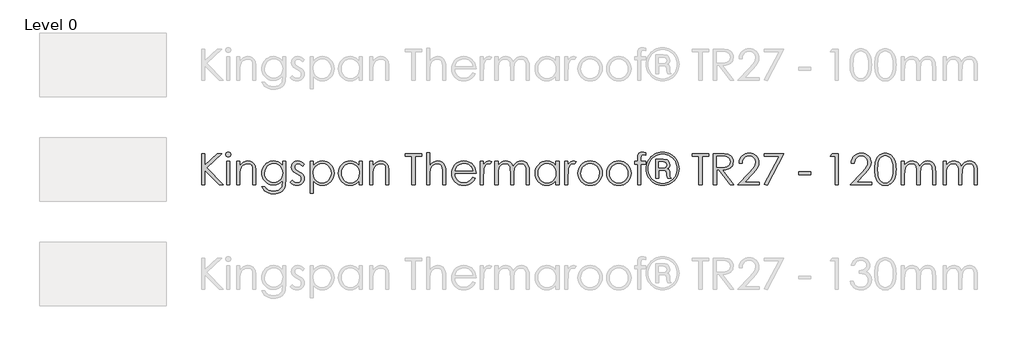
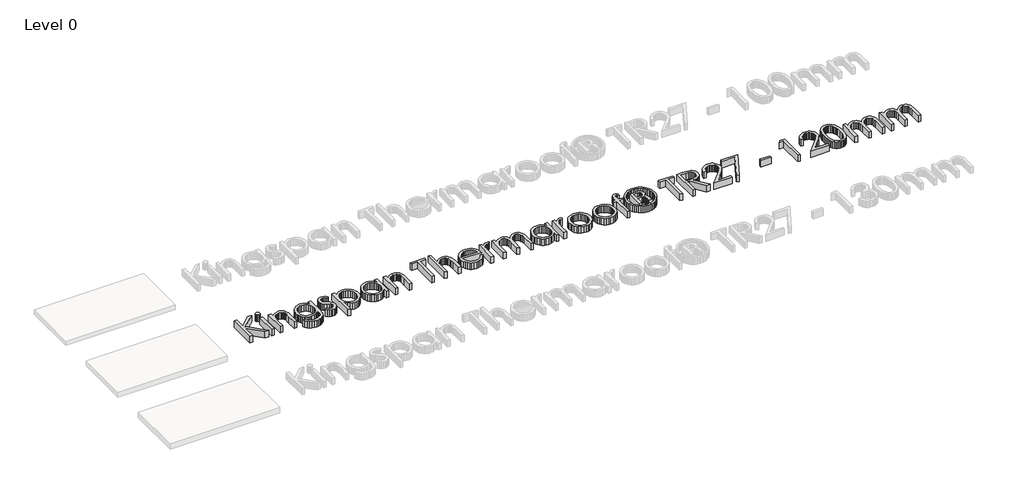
# One storey, part 6 of 12: 1 proxy.
"""IFC4 building model written with IfcOpenShell, lengths in millimetres."""

from ifc_helpers import new_model, si_unit, origin, origin_with_axes, place, context, project, spatial, polyline, outline, extrude, element, save

model = new_model("IFC4")

# Units and contexts
model_context = context("Model", 3, world=origin())
ifc_project = project(units=[si_unit("LENGTHUNIT", "METRE", prefix="MILLI")], contexts=[model_context])

# Site, building, storey
site = spatial("IfcSite", under=ifc_project)
building = spatial("IfcBuilding", under=site)
storey = spatial("IfcBuildingStorey", under=building, Name="Level 0", Elevation=0.0)

# Proxy
placement = place(None, origin())
element("IfcBuildingElementProxy", 1, Name="600mm KI_CenturyGothic", ObjectType="600mm KI_CenturyGothic", at=placement, inside=storey, context=model_context, shape_type="SweptSolid", body=[
    extrude(outline(polyline([(-3852.2663848, -5979.1037818), (-3792.944575, -5979.1037818), (-3792.944575, -6198.3164072), (-3555.1938841, -5979.1037818), (-3471.6181051, -5979.1037818), (-3760.9664119, -6246.051926), (-3441.9572002, -6572.3218801), (-3520.8984627, -6572.3218801), (-3792.944575, -6294.0964126), (-3792.944575, -6572.3218801), (-3852.2663848, -6572.3218801), (-3852.2663848, -5979.1037818)])), origin_with_axes(), (0.0, 0.0, 1.0), 150.0),
    extrude(outline(polyline([(-3348.1854852, -5949.4428769), (-3329.145347, -5952.7256594), (-3313.1176445, -5962.5740067), (-3302.226531, -5977.0182494), (-3298.5961598, -5994.0887182), (-3302.226531, -6010.927461), (-3313.1176445, -6025.2944619), (-3329.145347, -6035.1428092), (-3348.1854852, -6038.4255916), (-3366.9938975, -6035.1428092), (-3382.9443581, -6025.2944619), (-3393.8354717, -6010.927461), (-3397.4658428, -5994.0887182), (-3393.8354717, -5977.0182494), (-3382.9443581, -5962.5740067), (-3366.9938975, -5952.7256594), (-3348.1854852, -5949.4428769)])), origin_with_axes(), (0.0, 0.0, 1.0), 150.0),
    extrude(outline(polyline([(-3377.6919062, -6127.4083064), (-3318.3700964, -6127.4083064), (-3318.3700964, -6572.3218801), (-3377.6919062, -6572.3218801), (-3377.6919062, -6127.4083064)])), origin_with_axes(), (0.0, 0.0, 1.0), 150.0),
    extrude(outline(polyline([(-3189.8395084, -6127.4083064), (-3130.5176986, -6127.4083064), (-3130.5176986, -6206.5040528), (-3096.9946967, -6166.9948006), (-3060.0730495, -6139.3035651), (-3019.7141359, -6122.9668948), (-2975.879335, -6117.5213381), (-2953.4357238, -6119.0999702), (-2932.2955704, -6123.8358667), (-2912.4588747, -6131.7290274), (-2893.9256368, -6142.7794524), (-2877.212412, -6156.5043796), (-2862.835756, -6172.4210468), (-2841.0921499, -6210.8296014), (-2833.6238199, -6235.2090887), (-2828.2892984, -6265.5555158), (-2824.0216812, -6344.1491897), (-2824.0216812, -6572.3218801), (-2883.343491, -6572.3218801), (-2883.343491, -6359.134126), (-2883.343491, -6256.0933782), (-2884.7290183, -6235.2959859), (-2889.8125035, -6217.2406825), (-2898.2849788, -6201.9274679), (-2910.1464442, -6189.3563422), (-2924.7403432, -6179.556271), (-2941.4101193, -6172.5562202), (-2980.977303, -6166.9561796), (-3005.3471351, -6169.1141263), (-3028.4038541, -6175.5879664), (-3050.1474602, -6186.3776999), (-3070.5779533, -6201.4833267), (-3088.6622225, -6219.7655284), (-3103.3671568, -6240.0849862), (-3114.6927562, -6262.4417001), (-3122.6390208, -6286.8356703), (-3128.5480292, -6333.9146326), (-3130.5176986, -6408.4144836), (-3130.5176986, -6572.3218801), (-3189.8395084, -6572.3218801), (-3189.8395084, -6127.4083064)])), origin_with_axes(), (0.0, 0.0, 1.0), 150.0),
    extrude(outline(polyline([(-2319.7862977, -6127.4083064), (-2260.4644879, -6127.4083064), (-2260.4644879, -6478.3956812), (-2264.5196897, -6558.6500567), (-2269.588692, -6589.4502802), (-2276.6852953, -6614.0325276), (-2289.9371156, -6642.6458387), (-2307.2924139, -6667.7736073), (-2328.7511904, -6689.4158333), (-2354.3134448, -6707.5725168), (-2383.3226209, -6721.93469), (-2415.122162, -6732.1933851), (-2449.7120682, -6738.3486022), (-2487.0923395, -6740.4003412), (-2541.0458345, -6736.3837603), (-2589.206184, -6724.3340177), (-2630.260275, -6705.5062949), (-2662.8949946, -6681.1557733), (-2690.2000204, -6647.8065658), (-2715.2650299, -6601.982785), (-2655.94322, -6601.982785), (-2642.4355358, -6623.1519041), (-2627.0933555, -6641.3954848), (-2609.9166791, -6656.713527), (-2590.9055067, -6669.1060307), (-2569.7894914, -6678.6695484), (-2546.2982864, -6685.5006325), (-2492.1903075, -6690.9654997), (-2438.5071593, -6685.6358058), (-2415.083541, -6678.9736885), (-2393.93856, -6669.6467243), (-2359.6624492, -6645.6051705), (-2336.8567664, -6616.11806), (-2329.3884364, -6597.4786143), (-2324.0539149, -6573.7701664), (-2319.7862977, -6511.1462637), (-2319.7862977, -6488.4371333), (-2354.757586, -6524.219462), (-2396.6420279, -6550.6168949), (-2443.392712, -6566.8956338), (-2492.9627269, -6572.3218801), (-2522.4063889, -6570.4246249), (-2550.9521133, -6564.7328595), (-2578.5999001, -6555.2465837), (-2605.3497494, -6541.9657977), (-2630.1540674, -6525.4746435), (-2651.9652601, -6506.3572634), (-2670.7833277, -6484.6136573), (-2686.6082702, -6460.2438253), (-2699.1456025, -6433.9284619), (-2708.1008399, -6406.3482617), (-2713.4739824, -6377.5032248), (-2715.2650299, -6347.3933511), (-2713.3967404, -6317.1048555), (-2707.7918722, -6287.8784365), (-2698.4504251, -6259.7140941), (-2685.3723991, -6232.6118285), (-2668.9971079, -6207.4261285), (-2649.7638648, -6185.011483), (-2627.67267, -6165.3678922), (-2602.7235235, -6148.495356), (-2575.9833294, -6134.9442231), (-2548.5189922, -6125.2648425), (-2520.3305117, -6119.4572142), (-2491.4178881, -6117.5213381), (-2444.5320306, -6122.4648222), (-2400.8903346, -6137.2952747), (-2359.6045177, -6163.866502), (-2319.7862977, -6204.0323107), (-2319.7862977, -6127.4083064)]), holes=[polyline([(-2484.1571458, -6166.9561796), (-2529.0154023, -6172.9810509), (-2570.5908765, -6191.0556648), (-2606.2187212, -6219.770356), (-2633.2340897, -6257.7154589), (-2650.2659375, -6301.994401), (-2655.94322, -6349.7106093), (-2653.0080263, -6385.6232838), (-2644.2024452, -6418.2821415), (-2629.5264766, -6447.6871824), (-2608.9801206, -6473.8384067), (-2583.7606272, -6495.2971831), (-2555.0652466, -6510.6248806), (-2522.8939786, -6519.821499), (-2487.2468234, -6522.8870385), (-2451.3244937, -6519.8456372), (-2419.1001219, -6510.721433), (-2390.573708, -6495.5144261), (-2365.7452519, -6474.2246164), (-2345.6382095, -6447.9816673), (-2331.2760363, -6417.9152422), (-2322.6587323, -6384.0253411), (-2319.7862977, -6346.311964), (-2325.0773706, -6297.6109209), (-2340.9505892, -6254.3940555), (-2366.4983608, -6218.1675857), (-2400.8130926, -6190.4377293), (-2440.9982119, -6172.826567), (-2484.1571458, -6166.9561796)])]), origin_with_axes(), (0.0, 0.0, 1.0), 150.0),
    extrude(outline(polyline([(-1904.5336289, -6178.6969545), (-1940.9918246, -6216.3910211), (-1962.9575012, -6194.7632779), (-1984.6721416, -6179.31489), (-2006.1357456, -6170.0458572), (-2027.3483133, -6166.9561796), (-2052.181597, -6171.629317), (-2073.2300256, -6185.648729), (-2087.5970264, -6205.8861173), (-2092.3860267, -6229.2131831), (-2088.4466878, -6250.7636844), (-2076.628671, -6271.2327984), (-2052.0657341, -6293.4012352), (-2010.2006027, -6319.1228011), (-1958.3326401, -6351.9892466), (-1939.8428507, -6367.814189), (-1926.315856, -6383.2336112), (-1909.9791857, -6415.9069518), (-1904.5336289, -6452.4423894), (-1906.9474396, -6478.588786), (-1914.1888714, -6502.6496503), (-1926.2579245, -6524.6249822), (-1943.1545989, -6544.5147817), (-1963.6719892, -6561.0059359), (-1986.6031901, -6572.7853317), (-2011.9482016, -6579.8529692), (-2039.7070237, -6582.2088484), (-2077.4397114, -6578.3274409), (-2113.3958344, -6566.6832184), (-2145.4512394, -6548.2030843), (-2171.4817731, -6523.8139418), (-2135.7959969, -6483.3391653), (-2114.0041146, -6504.9669085), (-2091.5749863, -6520.4152965), (-2068.5086121, -6529.6843292), (-2044.8049918, -6532.7740068), (-2013.637869, -6527.1353452), (-1987.4914724, -6510.2193604), (-1969.7644472, -6485.6564235), (-1963.8554388, -6457.0769058), (-1967.7561567, -6433.2863883), (-1979.4583106, -6412.2765806), (-2005.0253927, -6390.5715955), (-2050.2119275, -6363.7686424), (-2099.762632, -6333.1035923), (-2117.441381, -6317.9448616), (-2130.3890611, -6302.9019938), (-2146.3781427, -6270.7693468), (-2151.7078365, -6234.3111512), (-2149.5305794, -6210.2647698), (-2142.9988078, -6188.3328865), (-2132.1125219, -6168.5155013), (-2116.8717217, -6150.8126142), (-2098.309518, -6136.2476809), (-2077.4590218, -6125.8441571), (-2054.3202332, -6119.6020428), (-2028.8931521, -6117.5213381), (-1997.9481, -6121.3448141), (-1966.9064954, -6132.8152422), (-1935.7683384, -6151.9326223), (-1904.5336289, -6178.6969545)])), origin_with_axes(), (0.0, 0.0, 1.0), 150.0),
    extrude(outline(polyline([(-1795.7769776, -6127.4083064), (-1736.4551678, -6127.4083064), (-1736.4551678, -6208.5123432), (-1700.9238754, -6168.2692926), (-1660.4490989, -6139.9215006), (-1614.9922173, -6123.1213787), (-1564.5146096, -6117.5213381), (-1520.0618732, -6121.7599895), (-1478.9305402, -6134.4759439), (-1441.1206107, -6155.6692011), (-1406.6320845, -6185.3397613), (-1377.9077381, -6220.9772613), (-1357.3903478, -6260.0713381), (-1345.0799137, -6302.6219917), (-1340.9764356, -6348.6292222), (-1345.0412927, -6395.5295625), (-1357.235864, -6438.7512555), (-1377.5601494, -6478.2943011), (-1406.014149, -6514.1586993), (-1440.2130179, -6543.9306395), (-1477.7719111, -6565.1963111), (-1518.6908288, -6577.955714), (-1562.9697708, -6582.2088484), (-1612.6170277, -6576.7439811), (-1658.0545988, -6560.3493794), (-1699.3211052, -6533.1022851), (-1736.4551678, -6495.0799402), (-1736.4551678, -6730.5133729), (-1795.7769776, -6730.5133729), (-1795.7769776, -6127.4083064)]), holes=[polyline([(-1568.5311905, -6166.9561796), (-1602.5852307, -6170.2534449), (-1633.8392507, -6180.1452408), (-1662.2932503, -6196.6315674), (-1687.9472295, -6219.7124245), (-1709.1694525, -6247.6981449), (-1724.3281832, -6278.899061), (-1733.4234216, -6313.3151728), (-1736.4551678, -6350.9464804), (-1731.048232, -6399.8020073), (-1714.8274246, -6443.4823243), (-1688.5265441, -6480.3267297), (-1652.8793888, -6508.6745216), (-1611.4390881, -6526.7491355), (-1567.7587711, -6532.7740068), (-1525.0632888, -6526.7105146), (-1485.0326535, -6508.5200377), (-1450.2544701, -6479.4191369), (-1423.3163435, -6440.6243726), (-1406.05277, -6395.9592208), (-1400.2982454, -6349.2471577), (-1405.9948385, -6302.3033687), (-1423.0846177, -6257.8699428), (-1449.8103289, -6219.5193197), (-1484.414718, -6190.823939), (-1524.7157001, -6172.9231194), (-1568.5311905, -6166.9561796)])]), origin_with_axes(), (0.0, 0.0, 1.0), 150.0),
    extrude(outline(polyline([(-807.0801472, -6127.4083064), (-807.0801472, -6572.3218801), (-866.401957, -6572.3218801), (-866.401957, -6496.4702951), (-903.4780882, -6534.3188456), (-944.8797679, -6561.0445568), (-990.4525125, -6576.9177755), (-1040.0418379, -6582.2088484), (-1084.3159523, -6577.955714), (-1125.2203871, -6565.1963111), (-1162.7551422, -6543.9306395), (-1196.9202178, -6514.1586993), (-1225.340424, -6478.2943011), (-1245.6405713, -6438.7512555), (-1257.8206597, -6395.5295625), (-1261.8806892, -6348.6292222), (-1257.7820388, -6302.6219917), (-1245.4860875, -6260.0713381), (-1224.9928353, -6220.9772613), (-1196.3022822, -6185.3397613), (-1161.8475494, -6155.6692011), (-1124.061758, -6134.4759439), (-1082.9449079, -6121.7599895), (-1038.4969991, -6117.5213381), (-987.7490446, -6123.1213787), (-942.0990581, -6139.9215006), (-921.2051134, -6152.6084893), (-901.6242816, -6168.2692926), (-866.401957, -6208.5123432), (-866.401957, -6127.4083064), (-807.0801472, -6127.4083064)]), holes=[polyline([(-1034.3259343, -6166.9561796), (-1078.1414247, -6172.9231194), (-1118.4424068, -6190.823939), (-1153.0467959, -6219.5193197), (-1179.7725071, -6257.8699428), (-1196.8622863, -6302.3033687), (-1202.5588794, -6349.2471577), (-1196.8043548, -6395.9592208), (-1179.5407813, -6440.6243726), (-1152.6026548, -6479.4191369), (-1117.8244713, -6508.5200377), (-1077.6779731, -6526.7105146), (-1034.6349021, -6532.7740068), (-991.0125165, -6526.7491355), (-949.7460102, -6508.6745216), (-914.2726493, -6480.3267297), (-888.0297002, -6443.4823243), (-871.8088928, -6399.8020073), (-866.401957, -6350.9464804), (-869.4337032, -6313.3151728), (-878.5289416, -6278.899061), (-893.6876723, -6247.6981449), (-914.9098953, -6219.7124245), (-940.5638746, -6196.6315674), (-969.0178742, -6180.1452408), (-1000.2718941, -6170.2534449), (-1034.3259343, -6166.9561796)])]), origin_with_axes(), (0.0, 0.0, 1.0), 150.0),
    extrude(outline(polyline([(-668.662591, -6127.4083064), (-609.3407811, -6127.4083064), (-609.3407811, -6206.5040528), (-575.8177792, -6166.9948006), (-538.896132, -6139.3035651), (-498.5372184, -6122.9668948), (-454.7024175, -6117.5213381), (-432.2588064, -6119.0999702), (-411.1186529, -6123.8358667), (-391.2819572, -6131.7290274), (-372.7487193, -6142.7794524), (-356.0354946, -6156.5043796), (-341.6588385, -6172.4210468), (-319.9152324, -6210.8296014), (-312.4469024, -6235.2090887), (-307.1123809, -6265.5555158), (-302.8447637, -6344.1491897), (-302.8447637, -6572.3218801), (-362.1665735, -6572.3218801), (-362.1665735, -6359.134126), (-362.1665735, -6256.0933782), (-363.5521008, -6235.2959859), (-368.635586, -6217.2406825), (-377.1080613, -6201.9274679), (-388.9695267, -6189.3563422), (-403.5634257, -6179.556271), (-420.2332018, -6172.5562202), (-459.8003855, -6166.9561796), (-484.1702176, -6169.1141263), (-507.2269366, -6175.5879664), (-528.9705427, -6186.3776999), (-549.4010358, -6201.4833267), (-567.485305, -6219.7655284), (-582.1902393, -6240.0849862), (-593.5158387, -6262.4417001), (-601.4621033, -6286.8356703), (-607.3711117, -6333.9146326), (-609.3407811, -6408.4144836), (-609.3407811, -6572.3218801), (-668.662591, -6572.3218801), (-668.662591, -6127.4083064)])), origin_with_axes(), (0.0, 0.0, 1.0), 150.0),
    extrude(outline(polyline([(3.6512537, -6028.5386233), (3.6512537, -5979.1037818), (320.0342394, -5979.1037818), (320.0342394, -6028.5386233), (191.5036515, -6028.5386233), (191.5036515, -6572.3218801), (132.1818417, -6572.3218801), (132.1818417, -6028.5386233), (3.6512537, -6028.5386233)])), origin_with_axes(), (0.0, 0.0, 1.0), 150.0),
    extrude(outline(polyline([(409.0169542, -5959.3298452), (468.338764, -5959.3298452), (468.338764, -6208.0488916), (502.1128022, -6168.3465345), (539.1696229, -6140.0759845), (579.470605, -6123.1599997), (622.9771276, -6117.5213381), (645.4207388, -6119.0999702), (666.5608922, -6123.8358667), (686.3975879, -6131.7290274), (704.9308258, -6142.7794524), (721.6440506, -6156.4898967), (736.0207066, -6172.3631154), (757.7643127, -6210.5978756), (765.2326428, -6234.9049486), (770.5671642, -6265.2658586), (774.8347814, -6344.1491897), (774.8347814, -6572.3218801), (715.5129716, -6572.3218801), (715.5129716, -6359.134126), (714.1226167, -6294.7529691), (709.9515519, -6256.0933782), (696.4342124, -6217.2406825), (686.7210385, -6201.9274679), (675.0381951, -6189.3563422), (661.3953375, -6179.556271), (645.8021209, -6172.5562202), (608.7646107, -6166.9561796), (585.8961689, -6169.1141263), (564.2539428, -6175.5879664), (543.8379326, -6186.3776999), (524.6481382, -6201.4833267), (507.659739, -6219.7655284), (493.8479146, -6240.0849862), (483.212665, -6262.4417001), (475.7539902, -6286.8356703), (470.1925705, -6333.6829068), (468.338764, -6408.4144836), (468.338764, -6572.3218801), (409.0169542, -6572.3218801), (409.0169542, -5959.3298452)])), origin_with_axes(), (0.0, 0.0, 1.0), 150.0),
    extrude(outline(polyline([(1280.6150037, -6424.0173555), (1328.5050064, -6449.1982279), (1302.8799929, -6491.0826698), (1273.5859872, -6524.0456676), (1240.5071264, -6549.1299876), (1203.5275477, -6567.3783959), (1162.048626, -6578.5012352), (1115.4717363, -6582.2088484), (1063.9803281, -6577.7770921), (1018.4172388, -6564.4818232), (978.7824684, -6542.3230417), (945.0760169, -6511.3007476), (918.1765113, -6474.6977233), (898.9625788, -6435.7967513), (887.4342193, -6394.5978316), (883.5914328, -6351.1009643), (886.8742152, -6310.2206676), (896.7225625, -6271.6190081), (913.1364748, -6235.2959859), (936.1159519, -6201.2516009), (972.3038007, -6164.6196109), (1014.1303111, -6138.4539038), (1061.5954832, -6122.7544795), (1114.6993169, -6117.5213381), (1169.3479893, -6122.8896529), (1218.2035163, -6138.9945974), (1261.2658978, -6165.8361715), (1298.5351338, -6203.4143752), (1320.008393, -6235.5856432), (1335.456781, -6271.5417662), (1344.8802977, -6311.2827442), (1348.278943, -6354.8085774), (942.9132426, -6354.8085774), (946.6498214, -6392.0633305), (956.1602353, -6425.8132306), (971.4444841, -6456.0582777), (992.502568, -6482.7984717), (1017.86689, -6504.6627683), (1046.0698533, -6520.2801231), (1077.1114579, -6529.6505359), (1110.9917037, -6532.7740068), (1144.5147056, -6529.7615712), (1177.1108043, -6520.7242642), (1206.8489511, -6506.6855416), (1231.7980977, -6488.6688592), (1255.2796474, -6462.503152), (1280.6150037, -6424.0173555)]), holes=[polyline([(1288.9571332, -6305.3737358), (1274.5322009, -6262.8520479), (1254.7389538, -6229.8311187), (1228.6311782, -6204.3026575), (1195.2626601, -6184.2583741), (1157.3175572, -6171.2817282), (1117.4800267, -6166.9561796), (1085.0577224, -6169.6693027), (1054.9912973, -6177.8086721), (1027.2807514, -6191.3742878), (1001.9260846, -6210.3661498), (985.3866543, -6228.1800722), (970.9906877, -6249.952644), (958.738185, -6275.6838652), (948.6291461, -6305.3737358), (1288.9571332, -6305.3737358)])]), origin_with_axes(), (0.0, 0.0, 1.0), 150.0),
    extrude(outline(polyline([(1427.3746895, -6127.4083064), (1486.6964993, -6127.4083064), (1486.6964993, -6191.8280842), (1512.2442709, -6158.7878445), (1539.1437765, -6135.6731939), (1567.317774, -6122.059302), (1596.6890217, -6117.5213381), (1620.0160875, -6121.3061931), (1644.8879922, -6132.6607583), (1615.3815711, -6174.6803736), (1586.8020534, -6166.9561796), (1560.3853099, -6172.903809), (1534.8954698, -6190.7466971), (1512.8428959, -6221.1027794), (1496.7379515, -6264.5899916), (1489.2068623, -6322.7145513), (1486.6964993, -6420.1552585), (1486.6964993, -6572.3218801), (1427.3746895, -6572.3218801), (1427.3746895, -6127.4083064)])), origin_with_axes(), (0.0, 0.0, 1.0), 150.0),
    extrude(outline(polyline([(1704.209802, -6127.4083064), (1763.5316118, -6127.4083064), (1763.5316118, -6203.5688591), (1793.1152748, -6167.0720425), (1823.4713571, -6141.9297911), (1866.8813274, -6123.6234513), (1912.4540719, -6117.5213381), (1943.2929164, -6120.6689471), (1972.4710592, -6130.1117743), (1998.2312461, -6144.7877428), (2018.8162231, -6163.6347762), (2035.5970345, -6189.0666849), (2049.9447249, -6223.4972796), (2064.7220735, -6199.0984818), (2081.247021, -6177.8086721), (2099.5195674, -6159.6278505), (2119.5397127, -6144.556017), (2140.83435, -6132.728345), (2162.9303724, -6124.2800078), (2185.82778, -6119.2110055), (2209.5265726, -6117.5213381), (2251.8551557, -6123.333794), (2271.0497777, -6130.599364), (2288.9312868, -6140.771162), (2305.0458865, -6153.5402202), (2318.9397805, -6168.5975708), (2340.065451, -6205.5771495), (2347.3648143, -6228.9524916), (2352.5786453, -6257.5223541), (2356.74971, -6330.2456405), (2356.74971, -6572.3218801), (2297.4279002, -6572.3218801), (2297.4279002, -6326.6925113), (2294.9754686, -6265.5748263), (2287.6181738, -6227.1276508), (2274.3132497, -6202.6612663), (2254.01793, -6183.4859547), (2227.9487753, -6171.0886234), (2197.3223461, -6166.9561796), (2177.6739277, -6168.505846), (2158.894481, -6173.1548453), (2123.9425033, -6191.7508423), (2095.2085016, -6220.6972593), (2075.434565, -6257.9471848), (2068.743482, -6282.1046015), (2063.9641369, -6313.1751718), (2060.1406609, -6396.0557733), (2060.1406609, -6572.3218801), (2000.8188511, -6572.3218801), (2000.8188511, -6341.9864153), (1998.4050405, -6273.5307461), (1991.1636086, -6231.2987155), (1977.9166159, -6205.0557664), (1957.4861228, -6184.5673419), (1931.1659318, -6171.3589702), (1900.2498454, -6166.9561796), (1863.3088876, -6173.0003614), (1828.801051, -6191.1329068), (1799.8353235, -6219.5000092), (1779.5206934, -6256.2478621), (1767.5288822, -6308.0772037), (1763.5316118, -6381.6887724), (1763.5316118, -6572.3218801), (1704.209802, -6572.3218801), (1704.209802, -6127.4083064)])), origin_with_axes(), (0.0, 0.0, 1.0), 150.0),
    extrude(outline(polyline([(2920.3069034, -6127.4083064), (2920.3069034, -6572.3218801), (2860.9850935, -6572.3218801), (2860.9850935, -6496.4702951), (2823.9089624, -6534.3188456), (2782.5072826, -6561.0445568), (2736.9345381, -6576.9177755), (2687.3452127, -6582.2088484), (2643.0710983, -6577.955714), (2602.1666635, -6565.1963111), (2564.6319083, -6543.9306395), (2530.4668328, -6514.1586993), (2502.0466266, -6478.2943011), (2481.7464792, -6438.7512555), (2469.5663908, -6395.5295625), (2465.5063614, -6348.6292222), (2469.6050118, -6302.6219917), (2481.9009631, -6260.0713381), (2502.3942153, -6220.9772613), (2531.0847683, -6185.3397613), (2565.5395011, -6155.6692011), (2603.3252926, -6134.4759439), (2644.4421427, -6121.7599895), (2688.8900515, -6117.5213381), (2739.638006, -6123.1213787), (2785.2879925, -6139.9215006), (2806.1819372, -6152.6084893), (2825.7627689, -6168.2692926), (2860.9850935, -6208.5123432), (2860.9850935, -6127.4083064), (2920.3069034, -6127.4083064)]), holes=[polyline([(2693.0611162, -6166.9561796), (2649.2456259, -6172.9231194), (2608.9446437, -6190.823939), (2574.3402547, -6219.5193197), (2547.6145435, -6257.8699428), (2530.5247643, -6302.3033687), (2524.8281712, -6349.2471577), (2530.5826957, -6395.9592208), (2547.8462693, -6440.6243726), (2574.7843958, -6479.4191369), (2609.5625792, -6508.5200377), (2649.7090775, -6526.7105146), (2692.7521485, -6532.7740068), (2736.374534, -6526.7491355), (2777.6410404, -6508.6745216), (2813.1144013, -6480.3267297), (2839.3573504, -6443.4823243), (2855.5781577, -6399.8020073), (2860.9850935, -6350.9464804), (2857.9533474, -6313.3151728), (2848.858109, -6278.899061), (2833.6993783, -6247.6981449), (2812.4771553, -6219.7124245), (2786.823176, -6196.6315674), (2758.3691764, -6180.1452408), (2727.1151565, -6170.2534449), (2693.0611162, -6166.9561796)])]), origin_with_axes(), (0.0, 0.0, 1.0), 150.0),
    extrude(outline(polyline([(3029.0635547, -6127.4083064), (3088.3853645, -6127.4083064), (3088.3853645, -6191.8280842), (3113.9331361, -6158.7878445), (3140.8326417, -6135.6731939), (3169.0066393, -6122.059302), (3198.3778869, -6117.5213381), (3221.7049527, -6121.3061931), (3246.5768574, -6132.6607583), (3217.0704364, -6174.6803736), (3188.4909186, -6166.9561796), (3162.0741752, -6172.903809), (3136.584335, -6190.7466971), (3114.5317612, -6221.1027794), (3098.4268167, -6264.5899916), (3090.8957276, -6322.7145513), (3088.3853645, -6420.1552585), (3088.3853645, -6572.3218801), (3029.0635547, -6572.3218801), (3029.0635547, -6127.4083064)])), origin_with_axes(), (0.0, 0.0, 1.0), 150.0),
    extrude(outline(polyline([(3508.7360013, -6117.5213381), (3558.0453247, -6122.1461992), (3602.932547, -6136.0207827), (3643.3976682, -6159.1450884), (3679.4406884, -6191.5191165), (3706.340194, -6226.7510963), (3725.5541265, -6265.0920642), (3737.0824861, -6306.5420202), (3740.9252726, -6351.1009643), (3736.8604155, -6395.9157722), (3724.6658442, -6437.8243522), (3704.3415588, -6476.8267043), (3675.8875592, -6512.9228283), (3641.0514443, -6543.2354621), (3601.580813, -6564.8873433), (3557.4756654, -6577.8784721), (3508.7360013, -6582.2088484), (3459.8611639, -6577.8784721), (3415.6594638, -6564.8873433), (3376.130901, -6543.2354621), (3341.2754757, -6512.9228283), (3312.8214761, -6476.8267043), (3292.4971906, -6437.8243522), (3280.3026194, -6395.9157722), (3276.2377623, -6351.1009643), (3280.0805488, -6306.735125), (3291.6089083, -6265.401032), (3310.8228409, -6227.098685), (3337.7223464, -6191.8280842), (3373.7846771, -6159.3188828), (3414.3077298, -6136.0980246), (3459.2915046, -6122.1655097), (3508.7360013, -6117.5213381)]), holes=[polyline([(3508.5815174, -6166.9561796), (3474.3054066, -6170.3306868), (3442.5396588, -6180.4542086), (3413.2842741, -6197.3267448), (3386.5392524, -6220.9482956), (3364.2356423, -6249.3588466), (3348.3044922, -6280.5983836), (3338.7458021, -6314.6669067), (3335.5595721, -6351.5644159), (3341.3720281, -6399.2999347), (3358.809396, -6443.6368082), (3386.1530427, -6481.4274273), (3421.6843351, -6509.5241829), (3463.2211882, -6526.9615509), (3508.5815174, -6532.7740068), (3553.9418466, -6526.9615509), (3595.4786998, -6509.5241829), (3631.0099921, -6481.4274273), (3658.3536389, -6443.6368082), (3675.7910068, -6399.2999347), (3681.6034628, -6351.5644159), (3678.4027499, -6314.6669067), (3668.8006112, -6280.5983836), (3652.7970468, -6249.3588466), (3630.3920566, -6220.9482956), (3603.5746206, -6197.3267448), (3574.3337188, -6180.4542086), (3542.669351, -6170.3306868), (3508.5815174, -6166.9561796)])]), origin_with_axes(), (0.0, 0.0, 1.0), 150.0),
    extrude(outline(polyline([(4052.519258, -6117.5213381), (4101.8285814, -6122.1461992), (4146.7158037, -6136.0207827), (4187.180925, -6159.1450884), (4223.2239452, -6191.5191165), (4250.1234507, -6226.7510963), (4269.3373833, -6265.0920642), (4280.8657428, -6306.5420202), (4284.7085293, -6351.1009643), (4280.6436722, -6395.9157722), (4268.4491009, -6437.8243522), (4248.1248155, -6476.8267043), (4219.6708159, -6512.9228283), (4184.834701, -6543.2354621), (4145.3640698, -6564.8873433), (4101.2589221, -6577.8784721), (4052.519258, -6582.2088484), (4003.6444206, -6577.8784721), (3959.4427205, -6564.8873433), (3919.9141578, -6543.2354621), (3885.0587324, -6512.9228283), (3856.6047328, -6476.8267043), (3836.2804474, -6437.8243522), (3824.0858761, -6395.9157722), (3820.021019, -6351.1009643), (3823.8638055, -6306.735125), (3835.392165, -6265.401032), (3854.6060976, -6227.098685), (3881.5056031, -6191.8280842), (3917.5679338, -6159.3188828), (3958.0909865, -6136.0980246), (4003.0747613, -6122.1655097), (4052.519258, -6117.5213381)]), holes=[polyline([(4052.3647741, -6166.9561796), (4018.0886633, -6170.3306868), (3986.3229156, -6180.4542086), (3957.0675308, -6197.3267448), (3930.3225091, -6220.9482956), (3908.018899, -6249.3588466), (3892.0877489, -6280.5983836), (3882.5290589, -6314.6669067), (3879.3428288, -6351.5644159), (3885.1552848, -6399.2999347), (3902.5926527, -6443.6368082), (3929.9362994, -6481.4274273), (3965.4675918, -6509.5241829), (4007.004445, -6526.9615509), (4052.3647741, -6532.7740068), (4097.7251033, -6526.9615509), (4139.2619565, -6509.5241829), (4174.7932489, -6481.4274273), (4202.1368956, -6443.6368082), (4219.5742635, -6399.2999347), (4225.3867195, -6351.5644159), (4222.1860066, -6314.6669067), (4212.5838679, -6280.5983836), (4196.5803035, -6249.3588466), (4174.1753133, -6220.9482956), (4147.3578773, -6197.3267448), (4118.1169755, -6180.4542086), (4086.4526077, -6170.3306868), (4052.3647741, -6166.9561796)])]), origin_with_axes(), (0.0, 0.0, 1.0), 150.0),
    extrude(outline(polyline([(4561.5436418, -5960.7202001), (4561.5436418, -6012.317816), (4535.2813822, -6002.2377428), (4513.0357036, -5998.8777184), (4499.3059487, -6000.5577306), (4488.086557, -6005.5977672), (4479.9761533, -6012.8198886), (4475.5733627, -6021.0461552), (4473.0243787, -6067.6230449), (4473.0243787, -6127.4083064), (4561.5436418, -6127.4083064), (4561.5436418, -6176.8431479), (4472.8698948, -6176.8431479), (4472.8698948, -6572.3218801), (4413.2391172, -6572.3218801), (4413.2391172, -6176.8431479), (4353.9173074, -6176.8431479), (4353.9173074, -6127.4083064), (4413.2391172, -6127.4083064), (4413.2391172, -6059.8988509), (4415.3246496, -6020.0613204), (4421.5812467, -5993.5480246), (4432.8392595, -5975.6278945), (4449.9290387, -5961.5698615), (4472.000923, -5952.474623), (4498.2052511, -5949.4428769), (4527.2482205, -5952.2622077), (4561.5436418, -5960.7202001)])), origin_with_axes(), (0.0, 0.0, 1.0), 150.0),
    extrude(outline(polyline([(5194.3096132, -6265.2079271), (5191.7075254, -6307.1503005), (5183.9012619, -6347.547835), (5170.8908226, -6386.4005308), (5152.6762077, -6423.7083877), (5129.9284564, -6458.3465701), (5103.3186081, -6489.1902423), (5072.8466628, -6516.2394041), (5038.5126205, -6539.4940556), (5001.5958009, -6558.1817774), (4963.3755235, -6571.5301502), (4923.8517884, -6579.5391738), (4883.0245956, -6582.2088484), (4842.2649894, -6579.5536567), (4802.7895305, -6571.5880816), (4764.5982189, -6558.3121232), (4727.6910545, -6539.7257814), (4693.3425293, -6516.5580271), (4662.8271355, -6489.537831), (4636.1448729, -6458.6651931), (4613.2957415, -6423.9401136), (4594.9797465, -6386.6370842), (4581.896893, -6348.0305971), (4574.0471808, -6308.1206523), (4571.4306101, -6266.9072498), (4574.0471808, -6225.2400508), (4581.896893, -6184.8956201), (4594.9797465, -6145.8739576), (4613.2957415, -6108.1750633), (4636.13039, -6073.1217055), (4662.769204, -6042.0366523), (4693.2121836, -6014.9199038), (4727.4593286, -5991.77146), (4764.2940787, -5973.2527049), (4802.4998732, -5960.0250227), (4842.0767122, -5952.0884133), (4883.0245956, -5949.4428769), (4923.9531684, -5952.0739305), (4963.4720759, -5959.9670912), (5001.581318, -5973.1223591), (5038.2808947, -5991.5397341), (5072.4025216, -6014.5867979), (5102.7779145, -6041.6311321), (5129.4070733, -6072.6727367), (5152.289998, -6107.7116117), (5170.6735796, -6145.333264), (5183.8047094, -6184.1232007), (5191.6833873, -6224.0814218), (5194.3096132, -6265.2079271)]), holes=[polyline([(5154.76174, -6265.8258626), (5152.4782752, -6229.6814624), (5145.6278806, -6194.6281046), (5134.2105564, -6160.6657891), (5118.2263025, -6127.7945161), (5098.3220201, -6097.192225), (5075.1446105, -6070.0368555), (5048.6940737, -6046.3284076), (5018.9704097, -6026.0668813), (4987.0115571, -6009.8460739), (4953.8554544, -5998.2597829), (4919.5021017, -5991.3080083), (4883.9514988, -5988.9907501), (4848.1353768, -5991.3080083), (4813.4489182, -5998.2597829), (4779.892123, -6009.8460739), (4747.4649911, -6026.0668813), (4717.3116688, -6046.3284076), (4690.5763024, -6070.0368555), (4667.2588918, -6097.192225), (4647.359437, -6127.7945161), (4631.4427698, -6160.7140653), (4620.0737217, -6194.8212094), (4613.2522929, -6230.1159483), (4610.9784833, -6266.598282), (4613.2522929, -6302.9068214), (4620.0737217, -6337.989145), (4631.4427698, -6371.8452527), (4647.359437, -6404.4751447), (4667.268547, -6434.807089), (4690.6149233, -6461.7693536), (4717.398566, -6485.3619386), (4747.619475, -6505.584844), (4780.0948831, -6521.8056514), (4813.6420231, -6533.3919424), (4848.260895, -6540.3437169), (4883.9514988, -6542.6609751), (4919.3234797, -6540.3292341), (4953.6044181, -6533.3340109), (4986.7943142, -6521.6753056), (5018.8931678, -6505.3531182), (5048.7761433, -6485.0433156), (5075.3184049, -6461.4217649), (5098.5199526, -6434.488466), (5118.3807864, -6404.2434189), (5134.2974536, -6371.6666307), (5145.6665016, -6337.7381087), (5152.4879304, -6302.4578526), (5154.76174, -6265.8258626)])]), origin_with_axes(), (0.0, 0.0, 1.0), 150.0),
    extrude(outline(polyline([(4749.3960396, -6087.8604332), (4893.5294994, -6087.8604332), (4936.9587801, -6090.4673486), (4966.2141648, -6098.288095), (4986.3356901, -6112.0178499), (5002.3633927, -6132.3517905), (5012.848986, -6157.9574936), (5016.3441838, -6187.5025356), (5014.722103, -6212.7992709), (5009.8558608, -6234.3111512), (4997.0336988, -6249.5664343), (4974.6335362, -6266.2893143), (4995.2957552, -6278.9763029), (5007.8475704, -6293.555719), (5014.2200304, -6314.6620791), (5016.3441838, -6346.9298995), (5016.3441838, -6387.0957082), (5021.4035308, -6413.049), (5036.581572, -6434.3677754), (5046.0050887, -6443.7912921), (4976.7963106, -6443.7912921), (4967.7590036, -6419.6531859), (4961.9658581, -6391.4212569), (4957.022374, -6347.8568028), (4954.4540795, -6327.3297573), (4949.8388735, -6313.9475912), (4942.9836514, -6305.5089092), (4933.6953081, -6299.8123162), (4918.0151943, -6296.5681547), (4891.9846606, -6295.4867675), (4808.7178494, -6295.4867675), (4808.7178494, -6443.7912921), (4749.3960396, -6443.7912921), (4749.3960396, -6087.8604332)]), holes=[polyline([(4808.7178494, -6137.2952747), (4808.7178494, -6246.051926), (4888.5860152, -6246.051926), (4919.1738234, -6243.7346678), (4938.0208567, -6236.7828932), (4946.3340205, -6228.8945601), (4952.2719947, -6218.6696583), (4957.022374, -6191.2101487), (4953.6044181, -6166.9948006), (4943.3505506, -6150.2719206), (4923.6345454, -6140.5394362), (4891.8301767, -6137.2952747), (4808.7178494, -6137.2952747)])]), origin_with_axes(), (0.0, 0.0, 1.0), 150.0),
    extrude(outline(polyline([(5441.4838208, -6028.5386233), (5441.4838208, -5979.1037818), (5757.8668066, -5979.1037818), (5757.8668066, -6028.5386233), (5629.3362186, -6028.5386233), (5629.3362186, -6572.3218801), (5570.0144088, -6572.3218801), (5570.0144088, -6028.5386233), (5441.4838208, -6028.5386233)])), origin_with_axes(), (0.0, 0.0, 1.0), 150.0),
    extrude(outline(polyline([(5846.8495213, -5979.1037818), (5966.5745281, -5979.1037818), (6050.4206538, -5981.0348303), (6102.0568906, -5986.8279758), (6127.5370756, -5994.3638926), (6150.5262079, -6005.230868), (6171.0242877, -6019.4289021), (6189.0313149, -6036.9579948), (6203.6976283, -6057.2581421), (6214.1735664, -6079.76934), (6220.4591292, -6104.4915883), (6222.5543169, -6131.4248873), (6216.7804818, -6175.2789986), (6209.5631881, -6195.1060391), (6199.4589768, -6213.5330693), (6186.6754358, -6230.1738798), (6171.4201527, -6244.6422606), (6133.4943602, -6267.0617337), (6110.0176381, -6274.998343), (6082.4567484, -6280.733557), (6015.0824664, -6285.5997992), (6232.4412852, -6572.3218801), (6160.4517972, -6572.3218801), (5943.0929784, -6285.5997992), (5906.1713311, -6285.5997992), (5906.1713311, -6572.3218801), (5846.8495213, -6572.3218801), (5846.8495213, -5979.1037818)]), holes=[polyline([(5906.1713311, -6028.5386233), (5906.1713311, -6236.1649577), (6011.0658855, -6236.7828932), (6064.1310982, -6233.8863205), (6101.2844713, -6225.1966023), (6127.276384, -6210.1151135), (6146.8572158, -6188.0432292), (6159.1386842, -6160.9892397), (6163.232507, -6130.9614356), (6159.0807528, -6101.7446719), (6146.62549, -6075.269997), (6127.4308679, -6053.7388062), (6103.0610359, -6039.3524949), (6067.2014653, -6031.2420912), (6013.5376276, -6028.5386233), (5906.1713311, -6028.5386233)])]), origin_with_axes(), (0.0, 0.0, 1.0), 150.0),
    extrude(outline(polyline([(6390.632778, -6157.0692113), (6331.3109682, -6157.0692113), (6335.7958283, -6117.8109953), (6346.9331505, -6082.2217716), (6364.7229348, -6050.3015399), (6389.1651812, -6022.0503004), (6418.5605669, -5998.9356499), (6451.2097694, -5982.4251852), (6487.1127885, -5972.5189064), (6526.2696244, -5969.2168135), (6564.7409381, -5972.5140788), (6599.35981, -5982.4058747), (6630.1262402, -5998.8922013), (6657.0402286, -6021.9730584), (6678.9045253, -6049.5339481), (6694.52188, -6079.4603722), (6703.8922928, -6111.7523307), (6707.0157637, -6146.4098236), (6700.932961, -6195.2074191), (6682.6845527, -6240.8767161), (6646.902224, -6292.7639892), (6588.2176602, -6360.2155132), (6435.4331031, -6522.8870385), (6716.902732, -6522.8870385), (6716.902732, -6572.3218801), (6311.5370316, -6572.3218801), (6537.5469477, -6331.6359954), (6594.2811525, -6266.1155199), (6626.993114, -6220.0213923), (6642.5187439, -6182.6556039), (6647.6939539, -6143.320146), (6645.4442824, -6118.7137605), (6638.6952679, -6095.8742844), (6627.4469104, -6074.8017177), (6611.6992099, -6055.4960604), (6592.6880375, -6039.376633), (6571.6492641, -6027.8627564), (6548.5828898, -6020.9544304), (6523.4889146, -6018.651655), (6497.1542407, -6020.9254646), (6473.1464803, -6027.7468935), (6451.4656333, -6039.1159415), (6432.1116997, -6055.0326087), (6415.8764095, -6075.052754), (6403.5514925, -6098.7322362), (6395.1369486, -6126.0710553), (6390.632778, -6157.0692113)])), origin_with_axes(), (0.0, 0.0, 1.0), 150.0),
    extrude(outline(polyline([(6805.8854468, -5979.1037818), (7181.5902423, -5979.1037818), (6865.2072566, -6582.2088484), (6811.2923826, -6559.8086858), (7089.9813016, -6028.5386233), (6805.8854468, -6028.5386233), (6805.8854468, -5979.1037818)])), origin_with_axes(), (0.0, 0.0, 1.0), 150.0),
    extrude(outline(polyline([(7458.4253548, -6325.1476725), (7685.8256258, -6325.1476725), (7685.8256258, -6374.582514), (7458.4253548, -6374.582514), (7458.4253548, -6325.1476725)])), origin_with_axes(), (0.0, 0.0, 1.0), 150.0),
    extrude(outline(polyline([(8095.362391, -5979.1037818), (8209.8349459, -5979.1037818), (8209.8349459, -6572.3218801), (8150.5131361, -6572.3218801), (8150.5131361, -6028.5386233), (8061.5304214, -6028.5386233), (8095.362391, -5979.1037818)])), origin_with_axes(), (0.0, 0.0, 1.0), 150.0),
    extrude(outline(polyline([(8516.3309634, -6157.0692113), (8457.0091535, -6157.0692113), (8461.4940137, -6117.8109953), (8472.6313359, -6082.2217716), (8490.4211201, -6050.3015399), (8514.8633665, -6022.0503004), (8544.2587522, -5998.9356499), (8576.9079547, -5982.4251852), (8612.8109739, -5972.5189064), (8651.9678098, -5969.2168135), (8690.4391235, -5972.5140788), (8725.0579954, -5982.4058747), (8755.8244256, -5998.8922013), (8782.738414, -6021.9730584), (8804.6027106, -6049.5339481), (8820.2200653, -6079.4603722), (8829.5904781, -6111.7523307), (8832.7139491, -6146.4098236), (8826.6311463, -6195.2074191), (8808.382738, -6240.8767161), (8772.6004094, -6292.7639892), (8713.9158456, -6360.2155132), (8561.1312885, -6522.8870385), (8842.6009174, -6522.8870385), (8842.6009174, -6572.3218801), (8437.2352169, -6572.3218801), (8663.245133, -6331.6359954), (8719.9793378, -6266.1155199), (8752.6912994, -6220.0213923), (8768.2169293, -6182.6556039), (8773.3921393, -6143.320146), (8771.1424678, -6118.7137605), (8764.3934533, -6095.8742844), (8753.1450958, -6074.8017177), (8737.3973953, -6055.4960604), (8718.3862228, -6039.376633), (8697.3474495, -6027.8627564), (8674.2810752, -6020.9544304), (8649.1870999, -6018.651655), (8622.8524261, -6020.9254646), (8598.8446656, -6027.7468935), (8577.1638186, -6039.1159415), (8557.8098851, -6055.0326087), (8541.5745948, -6075.052754), (8529.2496778, -6098.7322362), (8520.835134, -6126.0710553), (8516.3309634, -6157.0692113)])), origin_with_axes(), (0.0, 0.0, 1.0), 150.0),
    extrude(outline(polyline([(8901.9227272, -6275.8673148), (8903.5013594, -6221.4358853), (8908.2372558, -6173.541055), (8916.1304165, -6132.1828238), (8927.1808415, -6097.3611918), (8941.1085288, -6067.7195973), (8957.6334763, -6041.9014789), (8976.7556841, -6019.9068366), (8998.475152, -6001.7356702), (9022.1691171, -5987.5086704), (9047.2148161, -5977.3465277), (9073.6122491, -5971.2492421), (9101.361416, -5969.2168135), (9129.5643793, -5971.2637249), (9156.3962981, -5977.4044591), (9181.8571726, -5987.6390162), (9205.9470026, -6001.967396), (9228.1299222, -6020.3847711), (9247.8700654, -6042.8863137), (9265.1674323, -6069.4720239), (9280.0220229, -6100.1419016), (9291.951075, -6135.6587111), (9300.4718265, -6176.7852164), (9305.5842774, -6223.5214177), (9307.2884277, -6275.8673148), (9305.6084155, -6328.0539004), (9300.5683789, -6374.6211349), (9292.1683179, -6415.5690183), (9280.4082326, -6450.8975506), (9265.6984707, -6481.4225997), (9248.44938, -6507.9600337), (9228.6609605, -6530.5098525), (9206.3332123, -6549.0720562), (9182.0744155, -6563.5694027), (9156.4928505, -6573.9246503), (9129.5885174, -6580.1377988), (9101.361416, -6582.2088484), (9073.6363872, -6580.2005579), (9047.3113685, -6574.1756866), (9022.3863601, -6564.1342344), (8998.8613617, -6550.0762014), (8977.2867224, -6532.0402084), (8958.2127909, -6510.0648765), (8941.6395672, -6484.1502057), (8927.5670512, -6454.2961959), (8916.3476595, -6419.2766314), (8908.3338082, -6377.8652964), (8903.5254975, -6330.0621909), (8901.9227272, -6275.8673148)]), holes=[polyline([(8961.244537, -6275.7128309), (8965.6280171, -6364.0389892), (8971.1073672, -6399.0199327), (8978.7784574, -6427.8794525), (8988.5930114, -6452.1189387), (9000.502753, -6473.2397817), (9014.5076822, -6491.2419813), (9030.607799, -6506.1255376), (9065.9073656, -6526.1118895), (9084.3102577, -6531.1084775), (9103.2152225, -6532.7740068), (9122.2070845, -6531.1422709), (9140.5617004, -6526.2470629), (9175.3591944, -6506.6662312), (9191.1165501, -6491.9902626), (9204.8656154, -6474.0701325), (9216.6063903, -6452.905841), (9226.3388747, -6428.497388), (9235.8010123, -6395.1385252), (9242.5596821, -6358.5548115), (9247.9666178, -6275.7128309), (9243.1389966, -6194.1067215), (9237.10447, -6159.4154352), (9228.6561329, -6128.7986613), (9218.0739871, -6102.1357092), (9205.6380348, -6079.3058883), (9191.3482759, -6060.3091987), (9175.2047105, -6045.1456404), (9140.1368698, -6025.2751514), (9121.907772, -6020.3075291), (9103.2152225, -6018.651655), (9084.1992224, -6020.3075291), (9065.7721922, -6025.2751514), (9030.685041, -6045.1456404), (9014.739408, -6059.9567824), (9000.8117207, -6077.8962229), (8988.9019791, -6098.963962), (8979.0101832, -6123.1599997), (8971.237713, -6152.0146918), (8965.6859486, -6187.0583944), (8961.244537, -6275.7128309)])]), origin_with_axes(), (0.0, 0.0, 1.0), 150.0),
    extrude(outline(polyline([(9406.1581107, -6127.4083064), (9465.4799205, -6127.4083064), (9465.4799205, -6203.5688591), (9495.0635835, -6167.0720425), (9525.4196659, -6141.9297911), (9568.8296361, -6123.6234513), (9614.4023806, -6117.5213381), (9645.2412251, -6120.6689471), (9674.4193679, -6130.1117743), (9700.1795548, -6144.7877428), (9720.7645318, -6163.6347762), (9737.5453433, -6189.0666849), (9751.8930336, -6223.4972796), (9766.6703822, -6199.0984818), (9783.1953297, -6177.8086721), (9801.4678761, -6159.6278505), (9821.4880214, -6144.556017), (9842.7826587, -6132.728345), (9864.8786811, -6124.2800078), (9887.7760887, -6119.2110055), (9911.4748814, -6117.5213381), (9953.8034644, -6123.333794), (9972.9980865, -6130.599364), (9990.8795956, -6140.771162), (10006.9941953, -6153.5402202), (10020.8880892, -6168.5975708), (10042.0137597, -6205.5771495), (10049.3131231, -6228.9524916), (10054.526954, -6257.5223541), (10058.6980188, -6330.2456405), (10058.6980188, -6572.3218801), (9999.3762089, -6572.3218801), (9999.3762089, -6326.6925113), (9996.9237773, -6265.5748263), (9989.5664826, -6227.1276508), (9976.2615584, -6202.6612663), (9955.9662387, -6183.4859547), (9929.897084, -6171.0886234), (9899.2706549, -6166.9561796), (9879.6222364, -6168.505846), (9860.8427898, -6173.1548453), (9825.890812, -6191.7508423), (9797.1568103, -6220.6972593), (9777.3828737, -6257.9471848), (9770.6917907, -6282.1046015), (9765.9124457, -6313.1751718), (9762.0889696, -6396.0557733), (9762.0889696, -6572.3218801), (9702.7671598, -6572.3218801), (9702.7671598, -6341.9864153), (9700.3533492, -6273.5307461), (9693.1119173, -6231.2987155), (9679.8649246, -6205.0557664), (9659.4344316, -6184.5673419), (9633.1142405, -6171.3589702), (9602.1981541, -6166.9561796), (9565.2571964, -6173.0003614), (9530.7493597, -6191.1329068), (9501.7836323, -6219.5000092), (9481.4690021, -6256.2478621), (9469.4771909, -6308.0772037), (9465.4799205, -6381.6887724), (9465.4799205, -6572.3218801), (9406.1581107, -6572.3218801), (9406.1581107, -6127.4083064)])), origin_with_axes(), (0.0, 0.0, 1.0), 150.0),
    extrude(outline(polyline([(10197.115575, -6127.4083064), (10256.4373848, -6127.4083064), (10256.4373848, -6203.5688591), (10286.0210478, -6167.0720425), (10316.3771302, -6141.9297911), (10359.7871004, -6123.6234513), (10405.3598449, -6117.5213381), (10436.1986894, -6120.6689471), (10465.3768322, -6130.1117743), (10491.1370191, -6144.7877428), (10511.7219961, -6163.6347762), (10528.5028076, -6189.0666849), (10542.8504979, -6223.4972796), (10557.6278465, -6199.0984818), (10574.152794, -6177.8086721), (10592.4253404, -6159.6278505), (10612.4454857, -6144.556017), (10633.740123, -6132.728345), (10655.8361454, -6124.2800078), (10678.733553, -6119.2110055), (10702.4323457, -6117.5213381), (10744.7609287, -6123.333794), (10763.9555508, -6130.599364), (10781.8370599, -6140.771162), (10797.9516596, -6153.5402202), (10811.8455535, -6168.5975708), (10832.9712241, -6205.5771495), (10840.2705874, -6228.9524916), (10845.4844183, -6257.5223541), (10849.6554831, -6330.2456405), (10849.6554831, -6572.3218801), (10790.3336732, -6572.3218801), (10790.3336732, -6326.6925113), (10787.8812417, -6265.5748263), (10780.5239469, -6227.1276508), (10767.2190227, -6202.6612663), (10746.923703, -6183.4859547), (10720.8545483, -6171.0886234), (10690.2281192, -6166.9561796), (10670.5797007, -6168.505846), (10651.8002541, -6173.1548453), (10616.8482763, -6191.7508423), (10588.1142747, -6220.6972593), (10568.3403381, -6257.9471848), (10561.649255, -6282.1046015), (10556.86991, -6313.1751718), (10553.046434, -6396.0557733), (10553.046434, -6572.3218801), (10493.7246241, -6572.3218801), (10493.7246241, -6341.9864153), (10491.3108135, -6273.5307461), (10484.0693816, -6231.2987155), (10470.822389, -6205.0557664), (10450.3918959, -6184.5673419), (10424.0717049, -6171.3589702), (10393.1556184, -6166.9561796), (10356.2146607, -6173.0003614), (10321.706824, -6191.1329068), (10292.7410966, -6219.5000092), (10272.4264664, -6256.2478621), (10260.4346552, -6308.0772037), (10256.4373848, -6381.6887724), (10256.4373848, -6572.3218801), (10197.115575, -6572.3218801), (10197.115575, -6127.4083064)])), origin_with_axes(), (0.0, 0.0, 1.0), 150.0),
])

save(model, "model.ifc")
